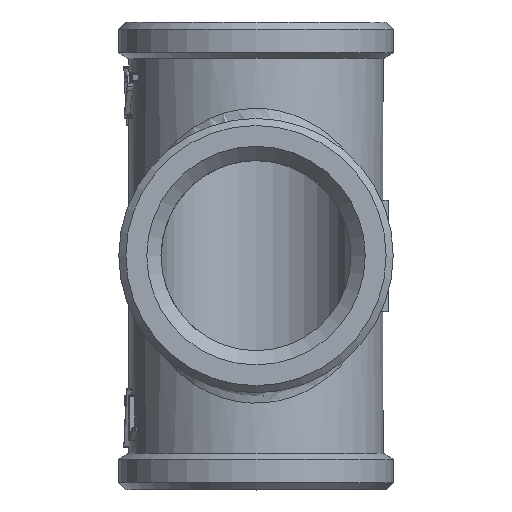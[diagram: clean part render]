
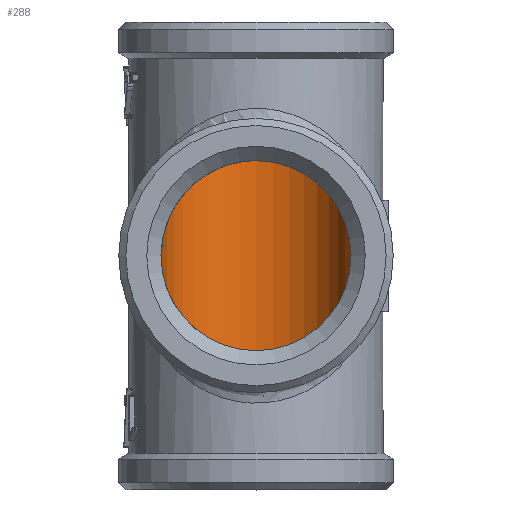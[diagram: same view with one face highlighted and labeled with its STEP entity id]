
A CAD part, top view. The second image highlights one B-rep face of the part: STEP entity #288.
In plain terms, the highlighted cylindrical face has radius 9.35 mm (diameter 18.7 mm), a full revolution.
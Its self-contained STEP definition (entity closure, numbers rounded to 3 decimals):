
#288=ADVANCED_FACE('',(#2355,#2357,#2359),#2361,.F.);
#2355=FACE_BOUND('',#2356,.T.);
#2356=EDGE_LOOP('',(#4503,#4504,#4505));
#2357=FACE_OUTER_BOUND('',#2358,.T.);
#2358=EDGE_LOOP('',(#4506));
#2359=FACE_OUTER_BOUND('',#2360,.T.);
#2360=EDGE_LOOP('',(#4507));
#2361=CYLINDRICAL_SURFACE('',#2362,9.35);
#2362=AXIS2_PLACEMENT_3D('',#2363,#2364,#2365);
#2363=CARTESIAN_POINT('',(0.,-24.,0.));
#2364=DIRECTION('',(0.,1.,0.));
#2365=DIRECTION('',(-1.,0.,0.));
#4503=ORIENTED_EDGE('',*,*,#5559,.T.);
#4504=ORIENTED_EDGE('',*,*,#5558,.T.);
#4505=ORIENTED_EDGE('',*,*,#5557,.T.);
#4506=ORIENTED_EDGE('',*,*,#5556,.T.);
#4507=ORIENTED_EDGE('',*,*,#5555,.T.);
#5555=EDGE_CURVE('',#6865,#6865,#6866,.F.);
#5556=EDGE_CURVE('',#6867,#6867,#6868,.T.);
#5557=EDGE_CURVE('',#6869,#6870,#6871,.T.);
#5558=EDGE_CURVE('',#6872,#6869,#6873,.F.);
#5559=EDGE_CURVE('',#6870,#6872,#6874,.F.);
#6865=VERTEX_POINT('',#12813);
#6866=CIRCLE('',#12814,9.35);
#6867=VERTEX_POINT('',#12818);
#6868=CIRCLE('',#12819,9.35);
#6869=VERTEX_POINT('',#12823);
#6870=VERTEX_POINT('',#12824);
#6871=(BOUNDED_CURVE()B_SPLINE_CURVE(3,
(#12825,#12826,#12827,#12828),
.UNSPECIFIED.,.F.,.F.)B_SPLINE_CURVE_WITH_KNOTS((4,4),
(0.,1.),
.UNSPECIFIED.)CURVE()GEOMETRIC_REPRESENTATION_ITEM()RATIONAL_B_SPLINE_CURVE((1.,
0.333,0.333,1.))REPRESENTATION_ITEM(''));
#6872=VERTEX_POINT('',#12829);
#6873=(BOUNDED_CURVE()B_SPLINE_CURVE(3,
(#12830,#12831,#12832,#12833),
.UNSPECIFIED.,.F.,.F.)B_SPLINE_CURVE_WITH_KNOTS((4,4),
(0.,1.),
.UNSPECIFIED.)CURVE()GEOMETRIC_REPRESENTATION_ITEM()RATIONAL_B_SPLINE_CURVE((1.,
0.805,0.805,1.))REPRESENTATION_ITEM(''));
#6874=(BOUNDED_CURVE()B_SPLINE_CURVE(3,
(#12834,#12835,#12836,#12837),
.UNSPECIFIED.,.F.,.F.)B_SPLINE_CURVE_WITH_KNOTS((4,4),
(0.,1.),
.UNSPECIFIED.)CURVE()GEOMETRIC_REPRESENTATION_ITEM()RATIONAL_B_SPLINE_CURVE((1.,
0.805,0.805,1.))REPRESENTATION_ITEM(''));
#12813=CARTESIAN_POINT('',(-9.35,-21.6,0.));
#12814=AXIS2_PLACEMENT_3D('',#12815,#12816,#12817);
#12815=CARTESIAN_POINT('',(0.,-21.6,0.));
#12816=DIRECTION('',(0.,1.,0.));
#12817=DIRECTION('',(-1.,0.,0.));
#12818=CARTESIAN_POINT('',(-9.35,21.6,0.));
#12819=AXIS2_PLACEMENT_3D('',#12820,#12821,#12822);
#12820=CARTESIAN_POINT('',(0.,21.6,0.));
#12821=DIRECTION('',(0.,1.,0.));
#12822=DIRECTION('',(-1.,0.,0.));
#12823=CARTESIAN_POINT('',(-9.35,0.,0.));
#12824=CARTESIAN_POINT('',(9.35,0.,0.));
#12825=CARTESIAN_POINT('',(-9.35,0.,0.));
#12826=CARTESIAN_POINT('',(-9.35,-18.7,18.7));
#12827=CARTESIAN_POINT('',(9.35,-18.7,18.7));
#12828=CARTESIAN_POINT('',(9.35,0.,0.));
#12829=CARTESIAN_POINT('',(0.,9.35,9.35));
#12830=CARTESIAN_POINT('',(-9.35,0.,0.));
#12831=CARTESIAN_POINT('',(-9.35,5.477,5.477));
#12832=CARTESIAN_POINT('',(-5.477,9.35,9.35));
#12833=CARTESIAN_POINT('',(0.,9.35,9.35));
#12834=CARTESIAN_POINT('',(0.,9.35,9.35));
#12835=CARTESIAN_POINT('',(5.477,9.35,9.35));
#12836=CARTESIAN_POINT('',(9.35,5.477,5.477));
#12837=CARTESIAN_POINT('',(9.35,0.,0.));
